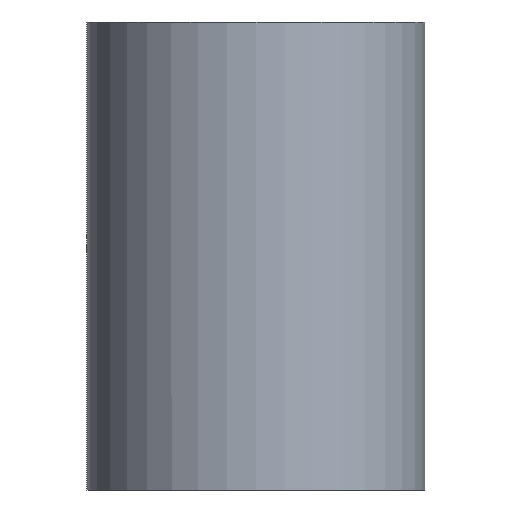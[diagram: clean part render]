
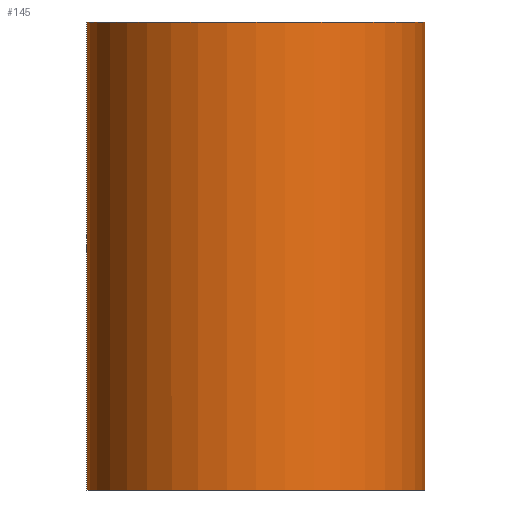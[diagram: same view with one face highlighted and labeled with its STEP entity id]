
A CAD part, front view. The second image highlights one B-rep face of the part: STEP entity #145.
In plain terms, the highlighted cylindrical face has radius 13 mm (diameter 26 mm), a full revolution.
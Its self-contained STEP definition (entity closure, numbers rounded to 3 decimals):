
#32=LINE('',#318,#36);
#36=VECTOR('',#269,13.);
#40=CYLINDRICAL_SURFACE('',#229,13.);
#49=FACE_OUTER_BOUND('',#58,.T.);
#58=EDGE_LOOP('',(#114,#115,#116,#117,#118,#119));
#67=CIRCLE('',#224,13.);
#68=CIRCLE('',#225,13.);
#71=CIRCLE('',#230,13.);
#72=CIRCLE('',#231,13.);
#79=VERTEX_POINT('',#303);
#80=VERTEX_POINT('',#304);
#83=VERTEX_POINT('',#314);
#84=VERTEX_POINT('',#315);
#91=EDGE_CURVE('',#79,#80,#67,.T.);
#92=EDGE_CURVE('',#80,#79,#68,.T.);
#96=EDGE_CURVE('',#83,#84,#71,.T.);
#97=EDGE_CURVE('',#84,#83,#72,.T.);
#98=EDGE_CURVE('',#84,#80,#32,.T.);
#114=ORIENTED_EDGE('',*,*,#96,.F.);
#115=ORIENTED_EDGE('',*,*,#97,.F.);
#116=ORIENTED_EDGE('',*,*,#98,.T.);
#117=ORIENTED_EDGE('',*,*,#91,.F.);
#118=ORIENTED_EDGE('',*,*,#92,.F.);
#119=ORIENTED_EDGE('',*,*,#98,.F.);
#145=ADVANCED_FACE('',(#49),#40,.T.);
#224=AXIS2_PLACEMENT_3D('',#305,#252,#253);
#225=AXIS2_PLACEMENT_3D('',#306,#254,#255);
#229=AXIS2_PLACEMENT_3D('',#313,#263,#264);
#230=AXIS2_PLACEMENT_3D('',#316,#265,#266);
#231=AXIS2_PLACEMENT_3D('',#317,#267,#268);
#252=DIRECTION('center_axis',(0.,0.,-1.));
#253=DIRECTION('ref_axis',(1.,0.,0.));
#254=DIRECTION('center_axis',(0.,0.,-1.));
#255=DIRECTION('ref_axis',(1.,0.,0.));
#263=DIRECTION('center_axis',(0.,0.,1.));
#264=DIRECTION('ref_axis',(1.,0.,0.));
#265=DIRECTION('center_axis',(0.,0.,1.));
#266=DIRECTION('ref_axis',(1.,0.,0.));
#267=DIRECTION('center_axis',(0.,0.,1.));
#268=DIRECTION('ref_axis',(1.,0.,0.));
#269=DIRECTION('',(0.,0.,-1.));
#303=CARTESIAN_POINT('',(13.,0.,-18.));
#304=CARTESIAN_POINT('',(-13.,0.,-18.));
#305=CARTESIAN_POINT('Origin',(0.,0.,-18.));
#306=CARTESIAN_POINT('Origin',(0.,0.,-18.));
#313=CARTESIAN_POINT('Origin',(0.,0.,0.));
#314=CARTESIAN_POINT('',(13.,0.,18.));
#315=CARTESIAN_POINT('',(-13.,0.,18.));
#316=CARTESIAN_POINT('Origin',(0.,0.,18.));
#317=CARTESIAN_POINT('Origin',(0.,0.,18.));
#318=CARTESIAN_POINT('',(-13.,0.,0.));
